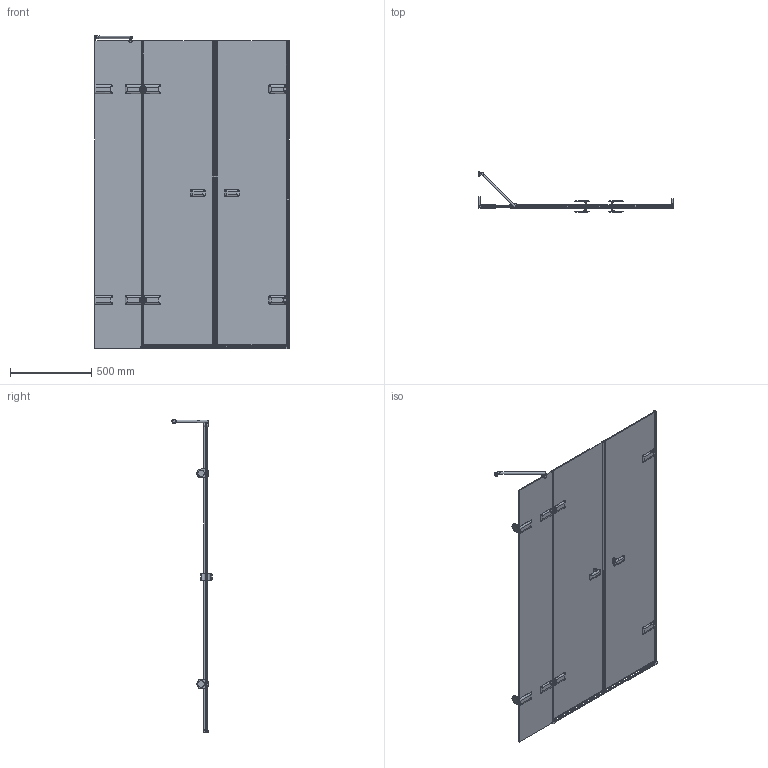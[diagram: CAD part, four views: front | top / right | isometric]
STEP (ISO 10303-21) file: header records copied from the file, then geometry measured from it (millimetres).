
FILE_DESCRIPTION(/* description */ (''),/* implementation_level */ '2;1');
FILE_NAME(/* name */ 'E:\Работа\Сергей\Душевые кабинки\! Работа\777\TREND DOOR GK-863A\TREND DOOR GK-863A правая модель\TREND DOOR GK-863A ПРАВАЯ-3D.stp',/* time_stamp */ '2018-04-20T17:48:21+03:00',/* author */ ('PC'),/* organization */ (''),/* preprocessor_version */ 'ST-DEVELOPER v15.2',/* originating_system */ 'Autodesk Inventor 2014',/* authorisation */ '');
FILE_SCHEMA (('AUTOMOTIVE_DESIGN { 1 0 10303 214 3 1 1 }'));
Products named in the file (1): TREND DOOR GK-863A ПРАВАЯ-3D
Bounding box: 1200 x 247.77 x 1934.76 mm (x, y, z)
Volume: 14975559.8 mm3; surface area: 5150749.3 mm2
Topology: 13 solids, 13 shells, 1875 faces, 4956 edges, 3060 vertices
Faces by surface type: plane 1077, cylinder 499, bspline 202, torus 56, cone 22, sphere 19
Full cylindrical faces by diameter (mm): 6 x4, 9 x8, 12 x3, 13 x4, 15 x1, 20 x2, 26 x1, 40 x2
Entity records: 77636 total; most frequent: CARTESIAN_POINT 30493, ORIENTED_EDGE 9616, DIRECTION 9114, EDGE_CURVE 4808, LINE 3040, VECTOR 3040, VERTEX_POINT 3038, AXIS2_PLACEMENT_3D 3037
